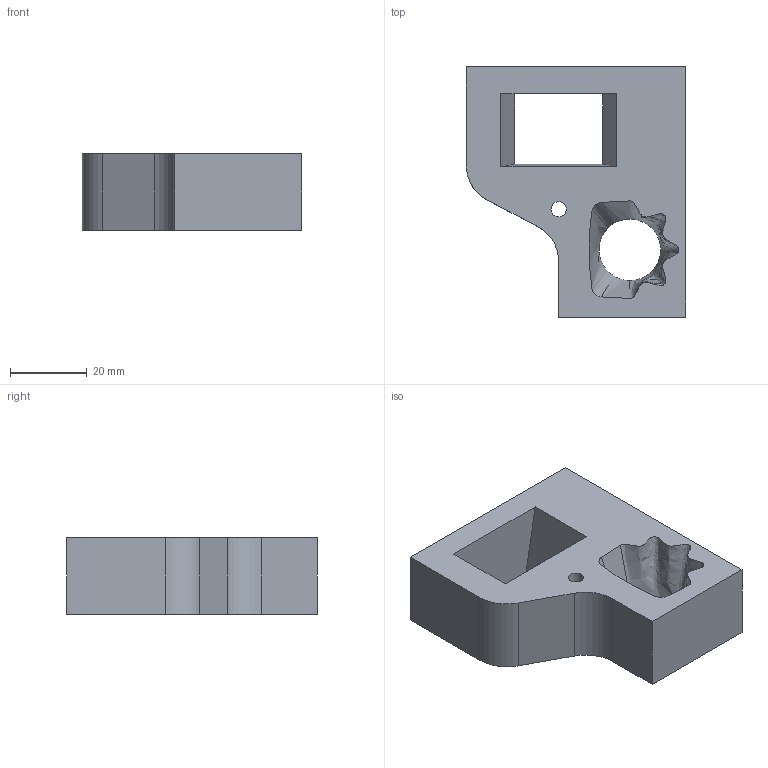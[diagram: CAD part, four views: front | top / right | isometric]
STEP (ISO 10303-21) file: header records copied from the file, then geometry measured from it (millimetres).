
FILE_DESCRIPTION((' '),'2;1');
FILE_NAME( 'WS02a.STEP', '2021-10-13T12:42:25', (' '), ('--- Datakit www.datakit.com---'), ' Datakit CrossCadWare V2021.1 Dec 21 2020', 'GO2cam V6.08', ' ');
FILE_SCHEMA(('AUTOMOTIVE_DESIGN { 1 0 10303 214 1 1 1 1 }'));
Length unit declared in the file: millimetre
Products named in the file (1): part
Bounding box: 57 x 65 x 20 mm (x, y, z)
Volume: 44762.4 mm3; surface area: 12536.5 mm2
Topology: 1 solids, 1 shells, 22 faces, 60 edges, 40 vertices
Faces by surface type: plane 12, bspline 10
Entity records: 1241 total; most frequent: CARTESIAN_POINT 661, ORIENTED_EDGE 120, DIRECTION 82, EDGE_CURVE 60, VERTEX_POINT 40, VECTOR 40, LINE 40, EDGE_LOOP 28
